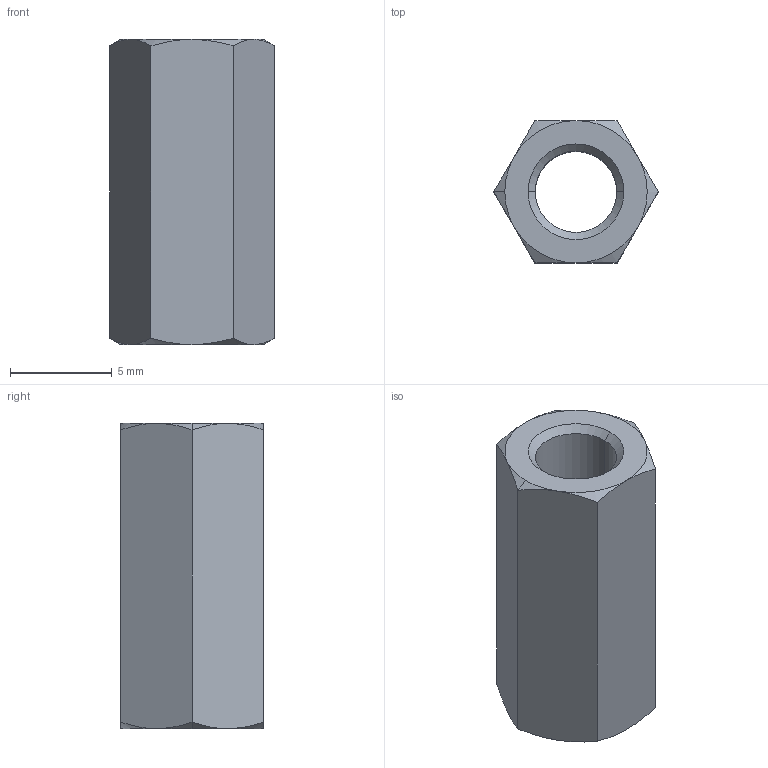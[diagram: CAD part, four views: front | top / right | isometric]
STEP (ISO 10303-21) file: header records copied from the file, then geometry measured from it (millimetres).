
FILE_DESCRIPTION (( 'STEP AP203' ), '1' );
FILE_NAME ('N0503.040-015-NP.step', '2025-02-27T14:42:41', ( '' ), ( '' ), 'SwSTEP 2.0', 'SolidWorks 2019', '' );
FILE_SCHEMA (( 'CONFIG_CONTROL_DESIGN' ));
Length unit declared in the file: millimetre
Products named in the file (1): N0503.040-015-NP
Bounding box: 8.08 x 7 x 15 mm (x, y, z)
Volume: 445.7 mm3; surface area: 603.1 mm2
Topology: 1 solids, 1 shells, 28 faces, 60 edges, 34 vertices
Faces by surface type: cone 18, plane 8, cylinder 2
Entity records: 879 total; most frequent: CARTESIAN_POINT 227, ORIENTED_EDGE 120, DIRECTION 116, EDGE_CURVE 60, AXIS2_PLACEMENT_3D 51, VERTEX_POINT 34, EDGE_LOOP 30, FACE_OUTER_BOUND 28
